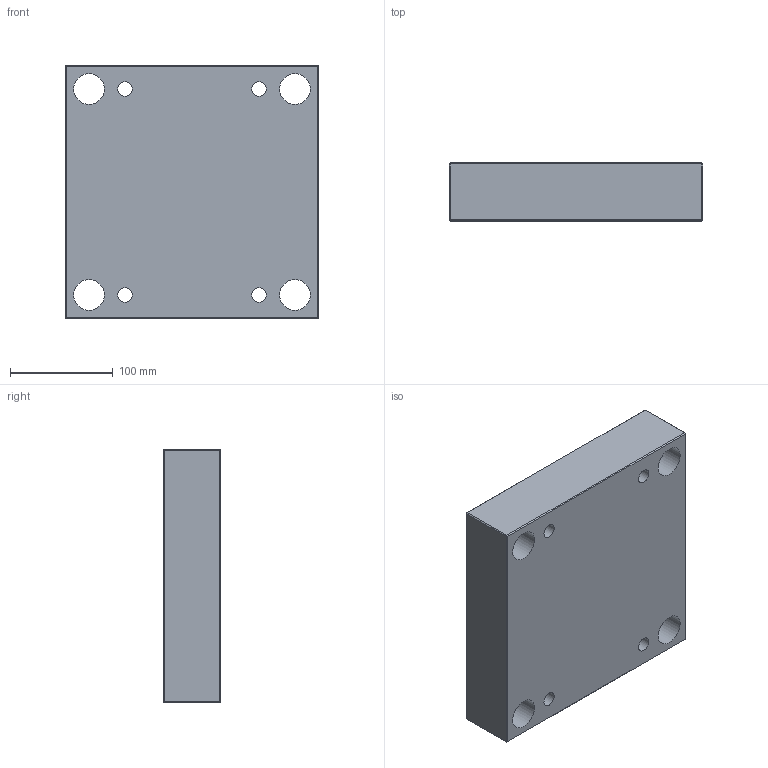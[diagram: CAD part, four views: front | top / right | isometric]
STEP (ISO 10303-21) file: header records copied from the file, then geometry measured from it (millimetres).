
FILE_DESCRIPTION(/* description */ ('STEP AP214'),/* implementation_level */ '2;1');
FILE_NAME(/* name */ 'KM0302462460561730',/* time_stamp */ '2026-06-22T16:07:05+02:00',/* author */ ('License CC BY-ND 4.0'),/* organization */ ('CADENAS'),/* preprocessor_version */ 'ST-DEVELOPER v20',/* originating_system */ 'PARTsolutions',/* authorisation */ ' ');
FILE_SCHEMA (('AUTOMOTIVE_DESIGN {1 0 10303 214 3 1 1}'));
Length unit declared in the file: millimetre
Products named in the file (1): KM0302462460561730
Bounding box: 246 x 56 x 246 mm (x, y, z)
Volume: 3194987.6 mm3; surface area: 198927.7 mm2
Topology: 1 solids, 1 shells, 26 faces, 72 edges, 48 vertices
Faces by surface type: plane 18, cylinder 8
Full cylindrical faces by diameter (mm): 14 x4, 30 x4
Entity records: 854 total; most frequent: CARTESIAN_POINT 139, DIRECTION 134, ORIENTED_EDGE 128, EDGE_CURVE 64, EDGE_LOOP 50, FACE_BOUND 50, VERTEX_POINT 48, LINE 48
